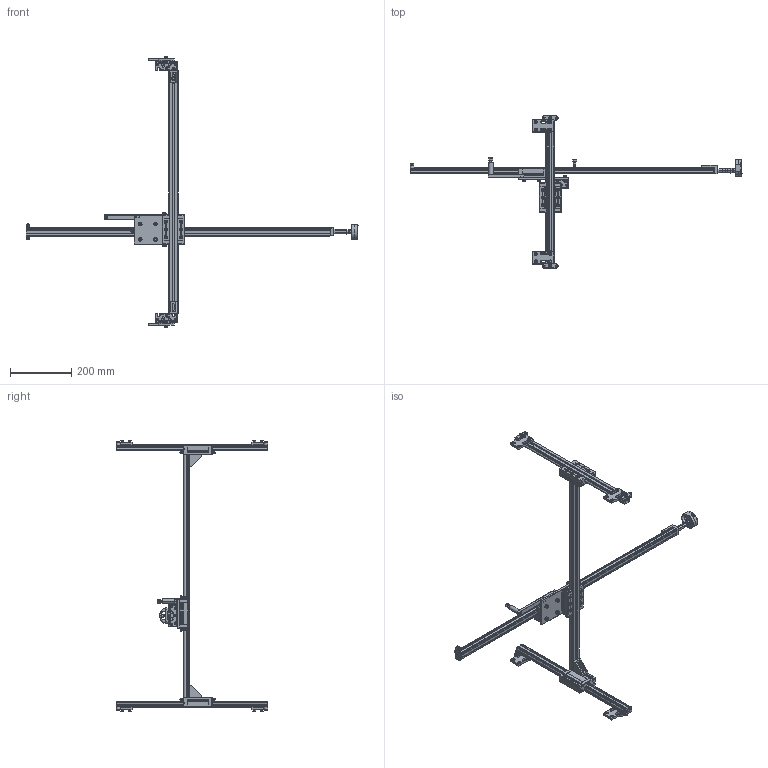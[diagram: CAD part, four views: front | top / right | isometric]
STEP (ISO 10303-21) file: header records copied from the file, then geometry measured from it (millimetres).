
FILE_DESCRIPTION (( 'STEP AP214' ), '1' );
FILE_NAME ('Braccio sospeso xyz.STEP', '2015-09-01T06:29:27', ( '' ), ( '' ), 'SwSTEP 2.0', 'SolidWorks 2014', '' );
FILE_SCHEMA (( 'AUTOMOTIVE_DESIGN' ));
Length unit declared in the file: millimetre
Products named in the file (1): Braccio sospeso xyz
Bounding box: 1088.29 x 498 x 888.8 mm (x, y, z)
Volume: 1993969.8 mm3; surface area: 814224.8 mm2
Topology: 100 solids, 100 shells, 4357 faces, 11319 edges, 7222 vertices
Faces by surface type: plane 2709, cylinder 1044, cone 378, bspline 186, torus 32, sphere 8
Entity records: 184050 total; most frequent: CARTESIAN_POINT 28101, ORIENTED_EDGE 22414, DIRECTION 22229, EDGE_CURVE 11207, AXIS2_PLACEMENT_3D 7583, VERTEX_POINT 7207, LINE 7063, VECTOR 7063
